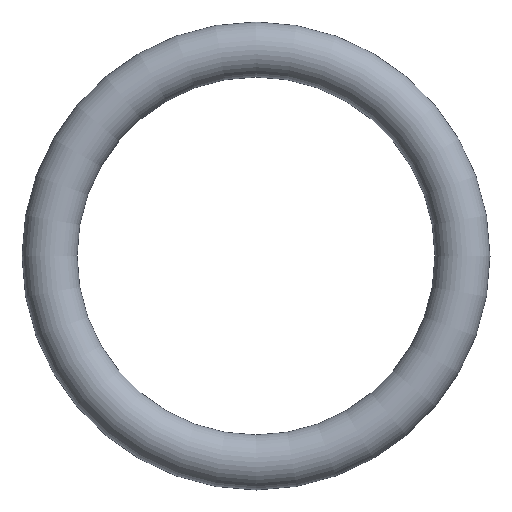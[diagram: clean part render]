
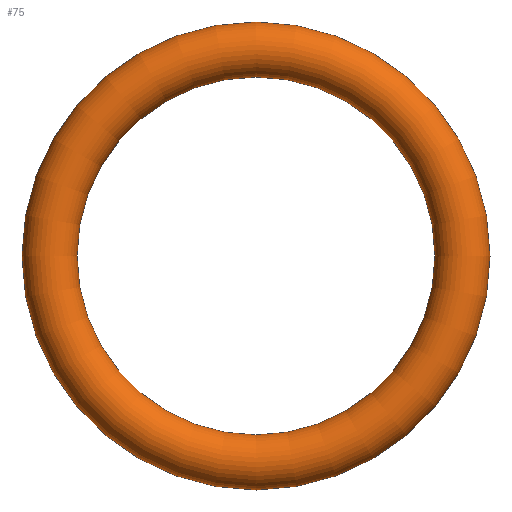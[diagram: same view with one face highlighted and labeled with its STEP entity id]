
A CAD part, front view. The second image highlights one B-rep face of the part: STEP entity #75.
In plain terms, the highlighted toroidal (fillet/blend) face has major radius 3.75 mm and minor radius 0.5 mm.
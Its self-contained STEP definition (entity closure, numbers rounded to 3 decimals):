
#75 = ADVANCED_FACE( '', ( #77 ), #78, .T. );
#77 = FACE_BOUND( '', #79, .T. );
#78 = TOROIDAL_SURFACE( '', #80, 3.75, 0.5 );
#79 = VERTEX_LOOP( '', #81 );
#80 = AXIS2_PLACEMENT_3D( '', #82, #83, #84 );
#81 = VERTEX_POINT( '', #85 );
#82 = CARTESIAN_POINT( '', ( 0., 0., 0. ) );
#83 = DIRECTION( '', ( 0., -1., 0. ) );
#84 = DIRECTION( '', ( 0., 0., -1. ) );
#85 = CARTESIAN_POINT( '', ( 0., 0., -4.25 ) );
